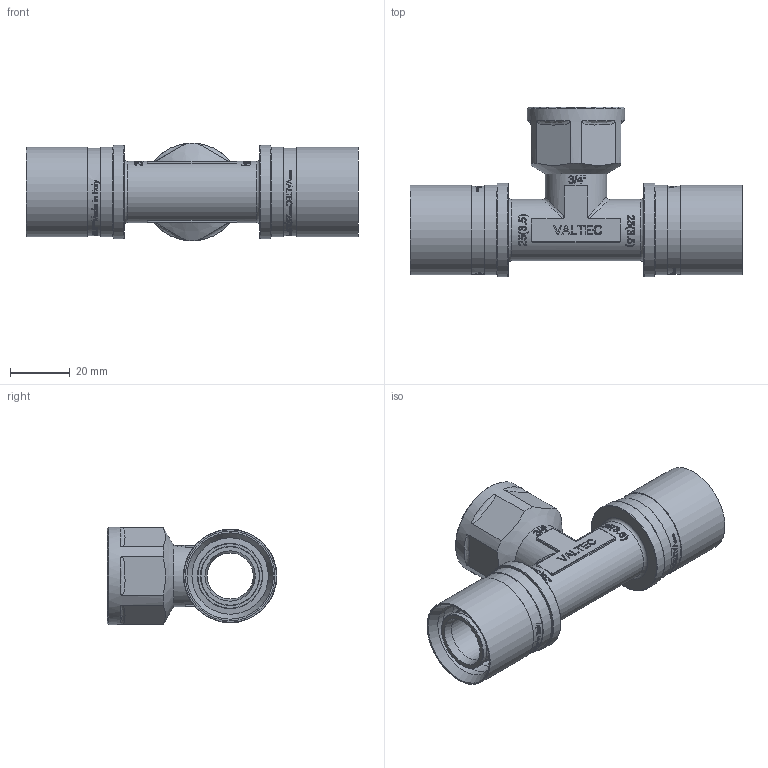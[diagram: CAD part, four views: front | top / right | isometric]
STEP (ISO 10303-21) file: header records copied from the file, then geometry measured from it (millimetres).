
FILE_DESCRIPTION(/* description */ (''),/* implementation_level */ '2;1');
FILE_NAME(/* name */ 'F:\Артём\00000\Работа удаленка\Аксеальные фитинги\VTm.432.BG.250525.stp',/* time_stamp */ '2021-01-26T15:33:04+03:00',/* author */ ('almis'),/* organization */ (''),/* preprocessor_version */ 'ST-DEVELOPER v18',/* originating_system */ 'Autodesk Inventor 2020',/* authorisation */ '');
FILE_SCHEMA (('AUTOMOTIVE_DESIGN { 1 0 10303 214 3 1 1 }'));
Products named in the file (1): VTm.403.BG.001616
Bounding box: 110.82 x 56.65 x 32.6 mm (x, y, z)
Volume: 36465.3 mm3; surface area: 32768.6 mm2
Topology: 1 solids, 1 shells, 1910 faces, 5250 edges, 3512 vertices
Faces by surface type: bspline 933, plane 667, cylinder 231, torus 62, cone 17
Full cylindrical faces by diameter (mm): 15.4 x2, 18.3 x10, 19.8 x8, 20.5 x2, 21.8 x2, 24.1 x8, 25.5 x4, 27.7 x12, 29.3 x2, 29.85 x4, 31.2 x2, 32.6 x1
Entity records: 80821 total; most frequent: CARTESIAN_POINT 37805, ORIENTED_EDGE 10476, DIRECTION 6213, EDGE_CURVE 5238, VERTEX_POINT 3512, LINE 2365, VECTOR 2365, EDGE_LOOP 2096
